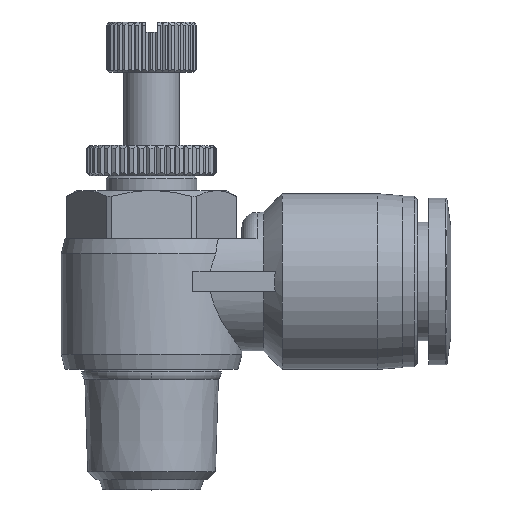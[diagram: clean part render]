
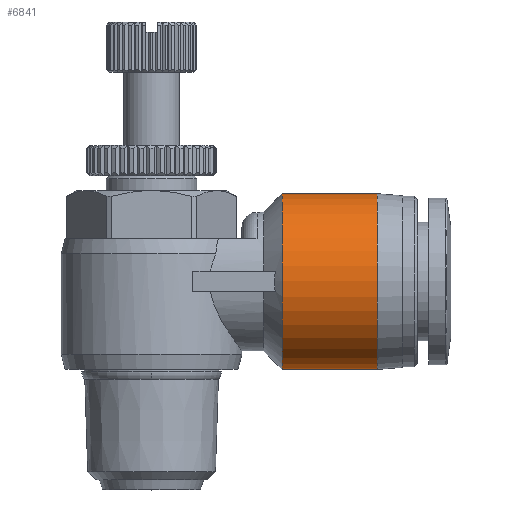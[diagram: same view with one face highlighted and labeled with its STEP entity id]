
A CAD part, top view. The second image highlights one B-rep face of the part: STEP entity #6841.
In plain terms, the highlighted cylindrical face has radius 8.75 mm (diameter 17.5 mm), a partial arc.
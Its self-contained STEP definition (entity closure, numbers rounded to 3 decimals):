
#911 = CYLINDRICAL_SURFACE ( 'NONE', #9137, 8.75 ) ;
#1604 = VERTEX_POINT ( 'NONE', #2045 ) ;
#1665 = AXIS2_PLACEMENT_3D ( 'NONE', #3798, #6516, #5694 ) ;
#1744 = EDGE_CURVE ( 'NONE', #6077, #9944, #11879, .T. ) ;
#2045 = CARTESIAN_POINT ( 'NONE',  ( 22.5, 28.5, 0. ) ) ;
#2687 = EDGE_LOOP ( 'NONE', ( #12444, #9143, #5921, #8526 ) ) ;
#2778 = DIRECTION ( 'NONE',  ( -1., 0., 0. ) ) ;
#2848 = EDGE_CURVE ( 'NONE', #5216, #6077, #5704, .T. ) ;
#2878 = FACE_OUTER_BOUND ( 'NONE', #2687, .T. ) ;
#3634 = CARTESIAN_POINT ( 'NONE',  ( 17.75, 19.75, 0. ) ) ;
#3692 = CIRCLE ( 'NONE', #1665, 8.75 ) ;
#3798 = CARTESIAN_POINT ( 'NONE',  ( 22.5, 19.75, 0. ) ) ;
#4550 = AXIS2_PLACEMENT_3D ( 'NONE', #11390, #2778, #4700 ) ;
#4700 = DIRECTION ( 'NONE',  ( 0., -1., 0. ) ) ;
#5216 = VERTEX_POINT ( 'NONE', #10211 ) ;
#5534 = DIRECTION ( 'NONE',  ( -1., 0., 0. ) ) ;
#5694 = DIRECTION ( 'NONE',  ( 0., -1., 0. ) ) ;
#5704 = LINE ( 'NONE', #9723, #10520 ) ;
#5735 = CARTESIAN_POINT ( 'NONE',  ( 17.75, 28.5, 0. ) ) ;
#5921 = ORIENTED_EDGE ( 'NONE', *, *, #1744, .F. ) ;
#6077 = VERTEX_POINT ( 'NONE', #9392 ) ;
#6149 = CARTESIAN_POINT ( 'NONE',  ( 13., 28.5, 0. ) ) ;
#6516 = DIRECTION ( 'NONE',  ( -1., 0., 0. ) ) ;
#6836 = EDGE_CURVE ( 'NONE', #1604, #9944, #7650, .T. ) ;
#6841 = ADVANCED_FACE ( 'NONE', ( #2878 ), #911, .T. ) ;
#7506 = VECTOR ( 'NONE', #5534, 1000. ) ;
#7650 = LINE ( 'NONE', #5735, #7506 ) ;
#7716 = DIRECTION ( 'NONE',  ( -1., 0., 0. ) ) ;
#8526 = ORIENTED_EDGE ( 'NONE', *, *, #2848, .F. ) ;
#8771 = DIRECTION ( 'NONE',  ( -1., 0., 0. ) ) ;
#9137 = AXIS2_PLACEMENT_3D ( 'NONE', #3634, #7716, #10587 ) ;
#9143 = ORIENTED_EDGE ( 'NONE', *, *, #6836, .T. ) ;
#9392 = CARTESIAN_POINT ( 'NONE',  ( 13., 11., 0. ) ) ;
#9723 = CARTESIAN_POINT ( 'NONE',  ( 17.75, 11., 0. ) ) ;
#9944 = VERTEX_POINT ( 'NONE', #6149 ) ;
#10211 = CARTESIAN_POINT ( 'NONE',  ( 22.5, 11., 0. ) ) ;
#10520 = VECTOR ( 'NONE', #8771, 1000. ) ;
#10587 = DIRECTION ( 'NONE',  ( 0., -1., 0. ) ) ;
#10716 = EDGE_CURVE ( 'NONE', #5216, #1604, #3692, .T. ) ;
#11390 = CARTESIAN_POINT ( 'NONE',  ( 13., 19.75, 0. ) ) ;
#11879 = CIRCLE ( 'NONE', #4550, 8.75 ) ;
#12444 = ORIENTED_EDGE ( 'NONE', *, *, #10716, .T. ) ;
